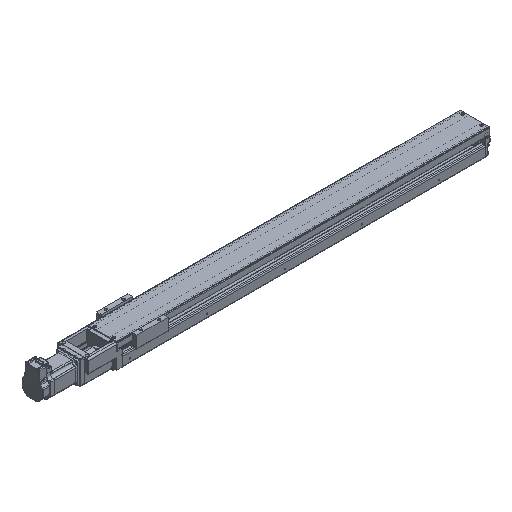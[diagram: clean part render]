
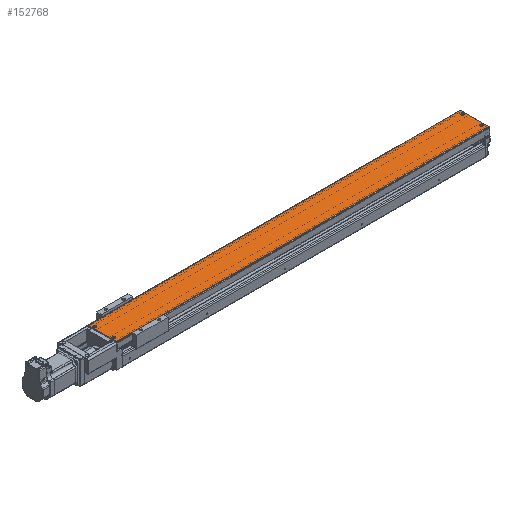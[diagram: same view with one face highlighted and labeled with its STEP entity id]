
A CAD part, isometric view. The second image highlights one B-rep face of the part: STEP entity #152768.
In plain terms, the highlighted planar face has unit normal (0, 0, 1).
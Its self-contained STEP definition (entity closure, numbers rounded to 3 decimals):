
#150611 = PLANE('',#150612);
#150612 = AXIS2_PLACEMENT_3D('',#150613,#150614,#150615);
#150613 = CARTESIAN_POINT('',(1031.62,-721.19,-12.415));
#150614 = DIRECTION('',(1.,0.,0.));
#150615 = DIRECTION('',(0.,0.,-1.));
#150668 = PLANE('',#150669);
#150669 = AXIS2_PLACEMENT_3D('',#150670,#150671,#150672);
#150670 = CARTESIAN_POINT('',(67.62,-738.69,-21.33));
#150671 = DIRECTION('',(-1.,0.,0.));
#150672 = DIRECTION('',(0.,-1.,0.));
#151068 = CYLINDRICAL_SURFACE('',#151069,2.);
#151069 = AXIS2_PLACEMENT_3D('',#151070,#151071,#151072);
#151070 = CARTESIAN_POINT('',(-49.88,-781.69,-8.33));
#151071 = DIRECTION('',(-1.,-0.,-0.));
#151072 = DIRECTION('',(0.,-0.707,0.707));
#151188 = CYLINDRICAL_SURFACE('',#151189,2.);
#151189 = AXIS2_PLACEMENT_3D('',#151190,#151191,#151192);
#151190 = CARTESIAN_POINT('',(-49.88,-708.69,-8.33));
#151191 = DIRECTION('',(1.,0.,-0.));
#151192 = DIRECTION('',(0.,0.707,0.707));
#152356 = VERTEX_POINT('',#152357);
#152357 = CARTESIAN_POINT('',(67.62,-781.69,-6.33));
#152383 = EDGE_CURVE('',#152384,#152356,#152386,.T.);
#152384 = VERTEX_POINT('',#152385);
#152385 = CARTESIAN_POINT('',(67.62,-708.69,-6.33));
#152386 = SURFACE_CURVE('',#152387,(#152391,#152398),.PCURVE_S1.);
#152387 = LINE('',#152388,#152389);
#152388 = CARTESIAN_POINT('',(67.62,-741.94,-6.33));
#152389 = VECTOR('',#152390,1.);
#152390 = DIRECTION('',(0.,-1.,0.));
#152391 = PCURVE('',#150668,#152392);
#152392 = DEFINITIONAL_REPRESENTATION('',(#152393),#152397);
#152393 = LINE('',#152394,#152395);
#152394 = CARTESIAN_POINT('',(3.25,15.));
#152395 = VECTOR('',#152396,1.);
#152396 = DIRECTION('',(1.,0.));
#152397 = ( GEOMETRIC_REPRESENTATION_CONTEXT(2) 
PARAMETRIC_REPRESENTATION_CONTEXT() REPRESENTATION_CONTEXT('2D SPACE',''
  ) );
#152398 = PCURVE('',#152399,#152404);
#152399 = PLANE('',#152400);
#152400 = AXIS2_PLACEMENT_3D('',#152401,#152402,#152403);
#152401 = CARTESIAN_POINT('',(-49.88,-745.19,-6.33));
#152402 = DIRECTION('',(0.,-0.,1.));
#152403 = DIRECTION('',(1.,0.,0.));
#152404 = DEFINITIONAL_REPRESENTATION('',(#152405),#152409);
#152405 = LINE('',#152406,#152407);
#152406 = CARTESIAN_POINT('',(117.5,3.25));
#152407 = VECTOR('',#152408,1.);
#152408 = DIRECTION('',(0.,-1.));
#152409 = ( GEOMETRIC_REPRESENTATION_CONTEXT(2) 
PARAMETRIC_REPRESENTATION_CONTEXT() REPRESENTATION_CONTEXT('2D SPACE',''
  ) );
#152720 = EDGE_CURVE('',#152384,#152721,#152723,.T.);
#152721 = VERTEX_POINT('',#152722);
#152722 = CARTESIAN_POINT('',(1031.62,-708.69,-6.33));
#152723 = SURFACE_CURVE('',#152724,(#152728,#152735),.PCURVE_S1.);
#152724 = LINE('',#152725,#152726);
#152725 = CARTESIAN_POINT('',(550.12,-708.69,-6.33));
#152726 = VECTOR('',#152727,1.);
#152727 = DIRECTION('',(1.,0.,0.));
#152728 = PCURVE('',#151188,#152729);
#152729 = DEFINITIONAL_REPRESENTATION('',(#152730),#152734);
#152730 = LINE('',#152731,#152732);
#152731 = CARTESIAN_POINT('',(0.785,600.));
#152732 = VECTOR('',#152733,1.);
#152733 = DIRECTION('',(0.,1.));
#152734 = ( GEOMETRIC_REPRESENTATION_CONTEXT(2) 
PARAMETRIC_REPRESENTATION_CONTEXT() REPRESENTATION_CONTEXT('2D SPACE',''
  ) );
#152735 = PCURVE('',#152399,#152736);
#152736 = DEFINITIONAL_REPRESENTATION('',(#152737),#152741);
#152737 = LINE('',#152738,#152739);
#152738 = CARTESIAN_POINT('',(600.,36.5));
#152739 = VECTOR('',#152740,1.);
#152740 = DIRECTION('',(1.,0.));
#152741 = ( GEOMETRIC_REPRESENTATION_CONTEXT(2) 
PARAMETRIC_REPRESENTATION_CONTEXT() REPRESENTATION_CONTEXT('2D SPACE',''
  ) );
#152768 = ADVANCED_FACE('',(#152769),#152399,.T.);
#152769 = FACE_BOUND('',#152770,.T.);
#152770 = EDGE_LOOP('',(#152771,#152772,#152795,#152816));
#152771 = ORIENTED_EDGE('',*,*,#152383,.T.);
#152772 = ORIENTED_EDGE('',*,*,#152773,.F.);
#152773 = EDGE_CURVE('',#152774,#152356,#152776,.T.);
#152774 = VERTEX_POINT('',#152775);
#152775 = CARTESIAN_POINT('',(1031.62,-781.69,-6.33));
#152776 = SURFACE_CURVE('',#152777,(#152781,#152788),.PCURVE_S1.);
#152777 = LINE('',#152778,#152779);
#152778 = CARTESIAN_POINT('',(550.12,-781.69,-6.33));
#152779 = VECTOR('',#152780,1.);
#152780 = DIRECTION('',(-1.,-0.,0.));
#152781 = PCURVE('',#152399,#152782);
#152782 = DEFINITIONAL_REPRESENTATION('',(#152783),#152787);
#152783 = LINE('',#152784,#152785);
#152784 = CARTESIAN_POINT('',(600.,-36.5));
#152785 = VECTOR('',#152786,1.);
#152786 = DIRECTION('',(-1.,0.));
#152787 = ( GEOMETRIC_REPRESENTATION_CONTEXT(2) 
PARAMETRIC_REPRESENTATION_CONTEXT() REPRESENTATION_CONTEXT('2D SPACE',''
  ) );
#152788 = PCURVE('',#151068,#152789);
#152789 = DEFINITIONAL_REPRESENTATION('',(#152790),#152794);
#152790 = LINE('',#152791,#152792);
#152791 = CARTESIAN_POINT('',(0.785,-600.));
#152792 = VECTOR('',#152793,1.);
#152793 = DIRECTION('',(0.,1.));
#152794 = ( GEOMETRIC_REPRESENTATION_CONTEXT(2) 
PARAMETRIC_REPRESENTATION_CONTEXT() REPRESENTATION_CONTEXT('2D SPACE',''
  ) );
#152795 = ORIENTED_EDGE('',*,*,#152796,.T.);
#152796 = EDGE_CURVE('',#152774,#152721,#152797,.T.);
#152797 = SURFACE_CURVE('',#152798,(#152802,#152809),.PCURVE_S1.);
#152798 = LINE('',#152799,#152800);
#152799 = CARTESIAN_POINT('',(1031.62,-745.19,-6.33));
#152800 = VECTOR('',#152801,1.);
#152801 = DIRECTION('',(0.,1.,0.));
#152802 = PCURVE('',#152399,#152803);
#152803 = DEFINITIONAL_REPRESENTATION('',(#152804),#152808);
#152804 = LINE('',#152805,#152806);
#152805 = CARTESIAN_POINT('',(1081.5,0.));
#152806 = VECTOR('',#152807,1.);
#152807 = DIRECTION('',(0.,1.));
#152808 = ( GEOMETRIC_REPRESENTATION_CONTEXT(2) 
PARAMETRIC_REPRESENTATION_CONTEXT() REPRESENTATION_CONTEXT('2D SPACE',''
  ) );
#152809 = PCURVE('',#150611,#152810);
#152810 = DEFINITIONAL_REPRESENTATION('',(#152811),#152815);
#152811 = LINE('',#152812,#152813);
#152812 = CARTESIAN_POINT('',(-6.085,-24.));
#152813 = VECTOR('',#152814,1.);
#152814 = DIRECTION('',(0.,1.));
#152815 = ( GEOMETRIC_REPRESENTATION_CONTEXT(2) 
PARAMETRIC_REPRESENTATION_CONTEXT() REPRESENTATION_CONTEXT('2D SPACE',''
  ) );
#152816 = ORIENTED_EDGE('',*,*,#152720,.F.);
